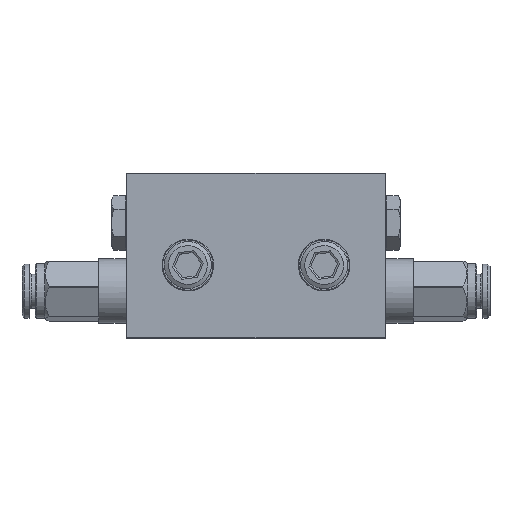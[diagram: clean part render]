
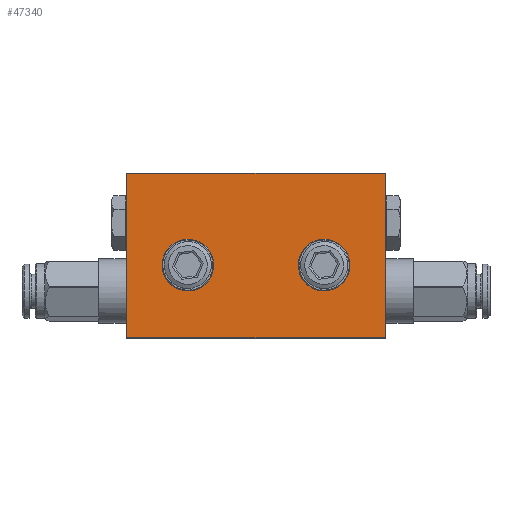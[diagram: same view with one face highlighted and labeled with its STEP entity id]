
A CAD part, top view. The second image highlights one B-rep face of the part: STEP entity #47340.
In plain terms, the highlighted planar face has unit normal (0, 0, 1) as drawn and (0, 0, -1) by its records, which use the part's own axes.
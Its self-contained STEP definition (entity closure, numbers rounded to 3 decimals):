
#235 = AXIS2_PLACEMENT_3D ( 'NONE', #45862, #8763, #31599 ) ;
#1402 = CARTESIAN_POINT ( 'NONE',  ( -11.4, -15.5, -4.85 ) ) ;
#1470 = EDGE_LOOP ( 'NONE', ( #14815, #35279, #8167, #42338 ) ) ;
#4290 = FACE_BOUND ( 'NONE', #5965, .T. ) ;
#4326 = DIRECTION ( 'NONE',  ( 1., 0., 0. ) ) ;
#4533 = DIRECTION ( 'NONE',  ( 0., 0., 1. ) ) ;
#4985 = VERTEX_POINT ( 'NONE', #21964 ) ;
#5445 = LINE ( 'NONE', #11907, #14538 ) ;
#5715 = AXIS2_PLACEMENT_3D ( 'NONE', #23332, #4533, #7986 ) ;
#5965 = EDGE_LOOP ( 'NONE', ( #36864 ) ) ;
#7171 = VERTEX_POINT ( 'NONE', #21869 ) ;
#7653 = CARTESIAN_POINT ( 'NONE',  ( -27.5, 0., -4.85 ) ) ;
#7986 = DIRECTION ( 'NONE',  ( 1., 0., 0. ) ) ;
#8157 = CIRCLE ( 'NONE', #28369, 3.1 ) ;
#8167 = ORIENTED_EDGE ( 'NONE', *, *, #32345, .F. ) ;
#8763 = DIRECTION ( 'NONE',  ( 0., 0., -1. ) ) ;
#11323 = EDGE_CURVE ( 'NONE', #4985, #42614, #14111, .T. ) ;
#11907 = CARTESIAN_POINT ( 'NONE',  ( 0., -35., -4.85 ) ) ;
#12205 = EDGE_CURVE ( 'NONE', #35034, #35034, #8157, .T. ) ;
#14111 = LINE ( 'NONE', #25299, #47979 ) ;
#14306 = DIRECTION ( 'NONE',  ( 1., 0., 0. ) ) ;
#14538 = VECTOR ( 'NONE', #4326, 1000. ) ;
#14815 = ORIENTED_EDGE ( 'NONE', *, *, #43491, .F. ) ;
#16833 = DIRECTION ( 'NONE',  ( 0., 0., -1. ) ) ;
#21869 = CARTESIAN_POINT ( 'NONE',  ( -27.5, -35., -4.85 ) ) ;
#21964 = CARTESIAN_POINT ( 'NONE',  ( 27.5, -35., -4.85 ) ) ;
#22610 = FACE_BOUND ( 'NONE', #29609, .T. ) ;
#23101 = PLANE ( 'NONE',  #5715 ) ;
#23332 = CARTESIAN_POINT ( 'NONE',  ( 0., 0., -4.85 ) ) ;
#24658 = VECTOR ( 'NONE', #47329, 1000. ) ;
#24806 = CARTESIAN_POINT ( 'NONE',  ( 27.5, 0., -4.85 ) ) ;
#25299 = CARTESIAN_POINT ( 'NONE',  ( 27.5, 0., -4.85 ) ) ;
#25440 = VECTOR ( 'NONE', #33410, 1000. ) ;
#26036 = CARTESIAN_POINT ( 'NONE',  ( -27.5, 0., -4.85 ) ) ;
#28369 = AXIS2_PLACEMENT_3D ( 'NONE', #43167, #16833, #14306 ) ;
#29109 = DIRECTION ( 'NONE',  ( 0., 1., 0. ) ) ;
#29609 = EDGE_LOOP ( 'NONE', ( #47104 ) ) ;
#29766 = CIRCLE ( 'NONE', #235, 3.1 ) ;
#30696 = CARTESIAN_POINT ( 'NONE',  ( 11.4, -15.5, -4.85 ) ) ;
#31599 = DIRECTION ( 'NONE',  ( -1., 0., 0. ) ) ;
#32345 = EDGE_CURVE ( 'NONE', #42614, #44125, #39696, .T. ) ;
#33410 = DIRECTION ( 'NONE',  ( 0., -1., 0. ) ) ;
#33826 = EDGE_CURVE ( 'NONE', #44125, #7171, #44009, .T. ) ;
#35034 = VERTEX_POINT ( 'NONE', #1402 ) ;
#35279 = ORIENTED_EDGE ( 'NONE', *, *, #33826, .F. ) ;
#36864 = ORIENTED_EDGE ( 'NONE', *, *, #41709, .F. ) ;
#39696 = LINE ( 'NONE', #46348, #24658 ) ;
#41512 = VERTEX_POINT ( 'NONE', #30696 ) ;
#41709 = EDGE_CURVE ( 'NONE', #41512, #41512, #29766, .T. ) ;
#41882 = FACE_OUTER_BOUND ( 'NONE', #1470, .T. ) ;
#42338 = ORIENTED_EDGE ( 'NONE', *, *, #11323, .F. ) ;
#42614 = VERTEX_POINT ( 'NONE', #24806 ) ;
#43167 = CARTESIAN_POINT ( 'NONE',  ( -14.5, -15.5, -4.85 ) ) ;
#43491 = EDGE_CURVE ( 'NONE', #7171, #4985, #5445, .T. ) ;
#44009 = LINE ( 'NONE', #7653, #25440 ) ;
#44125 = VERTEX_POINT ( 'NONE', #26036 ) ;
#45862 = CARTESIAN_POINT ( 'NONE',  ( 14.5, -15.5, -4.85 ) ) ;
#46348 = CARTESIAN_POINT ( 'NONE',  ( 0., 0., -4.85 ) ) ;
#47104 = ORIENTED_EDGE ( 'NONE', *, *, #12205, .F. ) ;
#47329 = DIRECTION ( 'NONE',  ( -1., 0., 0. ) ) ;
#47340 = ADVANCED_FACE ( 'NONE', ( #22610, #4290, #41882 ), #23101, .F. ) ;
#47979 = VECTOR ( 'NONE', #29109, 1000. ) ;
